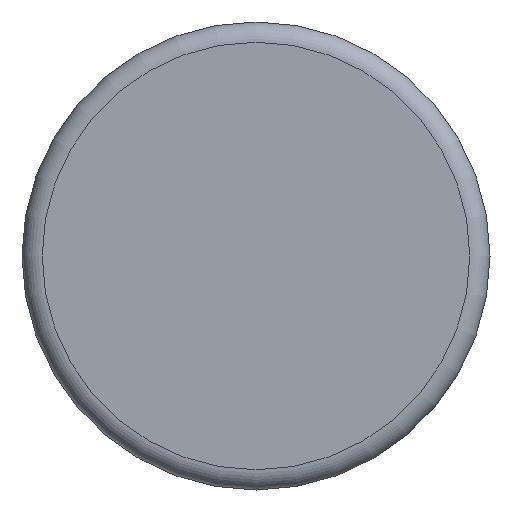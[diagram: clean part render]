
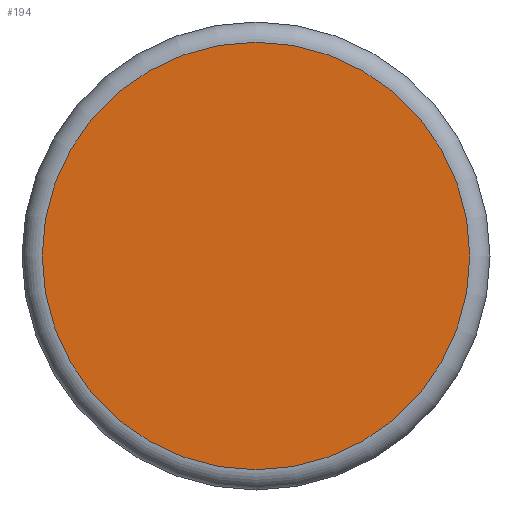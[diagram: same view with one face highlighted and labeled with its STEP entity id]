
A CAD part, front view. The second image highlights one B-rep face of the part: STEP entity #194.
In plain terms, the highlighted planar face has unit normal (0, -1, 0).
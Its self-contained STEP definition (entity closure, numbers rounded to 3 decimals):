
#43 = TOROIDAL_SURFACE('',#44,8.45,0.8);
#44 = AXIS2_PLACEMENT_3D('',#45,#46,#47);
#45 = CARTESIAN_POINT('',(-58.,-31.7,14.));
#46 = DIRECTION('',(-0.,-1.,-0.));
#47 = DIRECTION('',(0.,-0.,1.));
#110 = VERTEX_POINT('',#111);
#111 = CARTESIAN_POINT('',(-58.,-32.5,22.45));
#133 = EDGE_CURVE('',#110,#110,#134,.T.);
#134 = SURFACE_CURVE('',#135,(#140,#147),.PCURVE_S1.);
#135 = CIRCLE('',#136,8.45);
#136 = AXIS2_PLACEMENT_3D('',#137,#138,#139);
#137 = CARTESIAN_POINT('',(-58.,-32.5,14.));
#138 = DIRECTION('',(0.,1.,0.));
#139 = DIRECTION('',(0.,-0.,1.));
#140 = PCURVE('',#43,#141);
#141 = DEFINITIONAL_REPRESENTATION('',(#142),#146);
#142 = LINE('',#143,#144);
#143 = CARTESIAN_POINT('',(-0.,1.571));
#144 = VECTOR('',#145,1.);
#145 = DIRECTION('',(-1.,0.));
#146 = ( GEOMETRIC_REPRESENTATION_CONTEXT(2) 
PARAMETRIC_REPRESENTATION_CONTEXT() REPRESENTATION_CONTEXT('2D SPACE',''
  ) );
#147 = PCURVE('',#148,#153);
#148 = PLANE('',#149);
#149 = AXIS2_PLACEMENT_3D('',#150,#151,#152);
#150 = CARTESIAN_POINT('',(-58.,-32.5,14.));
#151 = DIRECTION('',(0.,1.,0.));
#152 = DIRECTION('',(0.,-0.,1.));
#153 = DEFINITIONAL_REPRESENTATION('',(#154),#158);
#154 = CIRCLE('',#155,8.45);
#155 = AXIS2_PLACEMENT_2D('',#156,#157);
#156 = CARTESIAN_POINT('',(0.,0.));
#157 = DIRECTION('',(1.,0.));
#158 = ( GEOMETRIC_REPRESENTATION_CONTEXT(2) 
PARAMETRIC_REPRESENTATION_CONTEXT() REPRESENTATION_CONTEXT('2D SPACE',''
  ) );
#194 = ADVANCED_FACE('',(#195),#148,.F.);
#195 = FACE_BOUND('',#196,.F.);
#196 = EDGE_LOOP('',(#197));
#197 = ORIENTED_EDGE('',*,*,#133,.T.);
